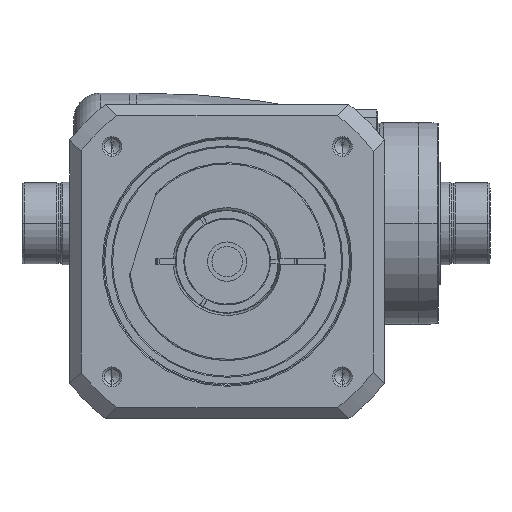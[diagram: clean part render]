
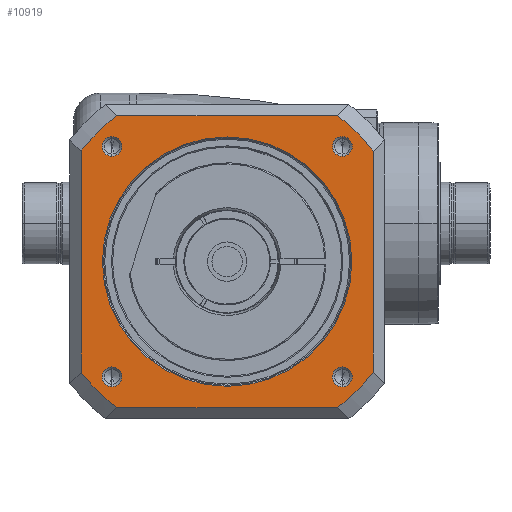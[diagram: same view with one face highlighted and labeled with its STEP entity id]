
A CAD part, front view. The second image highlights one B-rep face of the part: STEP entity #10919.
In plain terms, the highlighted planar face has unit normal (0, -1, 0) as drawn and (0, 0, 1) by its records, which use the part's own axes.
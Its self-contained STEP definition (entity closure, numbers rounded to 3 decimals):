
#9692=CARTESIAN_POINT('',(0.,0.,
56.));
#9693=DIRECTION('',(0.,0.,-1.));
#9694=DIRECTION('',(0.,-1.,0.));
#9695=AXIS2_PLACEMENT_3D('',#9692,#9693,#9694);
#9697=CARTESIAN_POINT('',(0.,0.,
56.));
#9698=DIRECTION('',(0.,0.,-1.));
#9699=DIRECTION('',(0.,1.,0.));
#9700=AXIS2_PLACEMENT_3D('',#9697,#9698,#9699);
#9702=DIRECTION('',(1.,0.,0.));
#9703=VECTOR('',#9702,98.331);
#9704=CARTESIAN_POINT('',(-49.166,65.,56.));
#9705=LINE('',#9704,#9703);
#9706=CARTESIAN_POINT('',(0.,0.,56.));
#9707=DIRECTION('',(0.,0.,1.));
#9708=DIRECTION('',(0.798,0.603,0.));
#9709=AXIS2_PLACEMENT_3D('',#9706,#9707,#9708);
#9711=DIRECTION('',(0.,1.,0.));
#9712=VECTOR('',#9711,98.331);
#9713=CARTESIAN_POINT('',(65.,-49.166,56.));
#9714=LINE('',#9713,#9712);
#9715=DIRECTION('',(1.,0.,0.));
#9716=VECTOR('',#9715,98.331);
#9717=CARTESIAN_POINT('',(-49.166,-65.,56.));
#9718=LINE('',#9717,#9716);
#9719=CARTESIAN_POINT('',(0.,0.,56.));
#9720=DIRECTION('',(0.,0.,1.));
#9721=DIRECTION('',(-0.798,-0.603,0.));
#9722=AXIS2_PLACEMENT_3D('',#9719,#9720,#9721);
#9724=DIRECTION('',(0.,1.,0.));
#9725=VECTOR('',#9724,98.331);
#9726=CARTESIAN_POINT('',(-65.,-49.166,56.));
#9727=LINE('',#9726,#9725);
#9742=CARTESIAN_POINT('',(0.,0.,56.));
#9743=DIRECTION('',(0.,0.,1.));
#9744=DIRECTION('',(-0.603,0.798,0.));
#9745=AXIS2_PLACEMENT_3D('',#9742,#9743,#9744);
#9752=CARTESIAN_POINT('',(0.,0.,56.));
#9753=DIRECTION('',(0.,0.,1.));
#9754=DIRECTION('',(0.603,-0.798,0.));
#9755=AXIS2_PLACEMENT_3D('',#9752,#9753,#9754);
#9769=CARTESIAN_POINT('',(-49.166,65.,56.));
#9861=CARTESIAN_POINT('',(65.,-49.166,56.));
#9889=CARTESIAN_POINT('',(49.166,-65.,56.));
#9929=CARTESIAN_POINT('',(-65.,49.166,56.));
#9938=CARTESIAN_POINT('',(-51.265,51.265,56.));
#9939=DIRECTION('',(0.,0.,1.));
#9940=DIRECTION('',(-1.,0.,0.));
#9941=AXIS2_PLACEMENT_3D('',#9938,#9939,#9940);
#9956=CARTESIAN_POINT('',(-51.265,51.265,56.));
#9957=DIRECTION('',(0.,0.,1.));
#9958=DIRECTION('',(1.,0.,0.));
#9959=AXIS2_PLACEMENT_3D('',#9956,#9957,#9958);
#9992=CARTESIAN_POINT('',(51.265,51.265,56.));
#9993=DIRECTION('',(0.,0.,1.));
#9994=DIRECTION('',(-1.,0.,0.));
#9995=AXIS2_PLACEMENT_3D('',#9992,#9993,#9994);
#10010=CARTESIAN_POINT('',(51.265,51.265,56.));
#10011=DIRECTION('',(0.,0.,1.));
#10012=DIRECTION('',(1.,0.,0.));
#10013=AXIS2_PLACEMENT_3D('',#10010,#10011,#10012);
#10046=CARTESIAN_POINT('',(51.265,-51.265,56.));
#10047=DIRECTION('',(0.,0.,1.));
#10048=DIRECTION('',(-1.,0.,0.));
#10049=AXIS2_PLACEMENT_3D('',#10046,#10047,#10048);
#10064=CARTESIAN_POINT('',(51.265,-51.265,56.));
#10065=DIRECTION('',(0.,0.,1.));
#10066=DIRECTION('',(1.,0.,0.));
#10067=AXIS2_PLACEMENT_3D('',#10064,#10065,#10066);
#10100=CARTESIAN_POINT('',(-51.265,-51.265,56.));
#10101=DIRECTION('',(0.,0.,1.));
#10102=DIRECTION('',(-1.,0.,0.));
#10103=AXIS2_PLACEMENT_3D('',#10100,#10101,#10102);
#10118=CARTESIAN_POINT('',(-51.265,-51.265,56.));
#10119=DIRECTION('',(0.,0.,1.));
#10120=DIRECTION('',(1.,0.,0.));
#10121=AXIS2_PLACEMENT_3D('',#10118,#10119,#10120);
#10208=CARTESIAN_POINT('',(-55.665,51.265,56.));
#10209=CARTESIAN_POINT('',(-46.865,51.265,56.));
#10210=VERTEX_POINT('',#10208);
#10211=VERTEX_POINT('',#10209);
#10234=CARTESIAN_POINT('',(-65.,-49.166,56.));
#10235=CARTESIAN_POINT('',(-49.166,-65.,56.));
#10236=VERTEX_POINT('',#10234);
#10237=VERTEX_POINT('',#10235);
#10238=CARTESIAN_POINT('',(65.,49.166,56.));
#10239=CARTESIAN_POINT('',(49.166,65.,56.));
#10240=VERTEX_POINT('',#10238);
#10241=VERTEX_POINT('',#10239);
#10250=VERTEX_POINT('',#9769);
#10253=VERTEX_POINT('',#9861);
#10254=VERTEX_POINT('',#9889);
#10257=VERTEX_POINT('',#9929);
#10266=CARTESIAN_POINT('',(55.665,51.265,56.));
#10267=CARTESIAN_POINT('',(46.865,51.265,56.));
#10268=VERTEX_POINT('',#10266);
#10269=VERTEX_POINT('',#10267);
#10274=CARTESIAN_POINT('',(55.665,-51.265,56.));
#10275=CARTESIAN_POINT('',(46.865,-51.265,56.));
#10276=VERTEX_POINT('',#10274);
#10277=VERTEX_POINT('',#10275);
#10282=CARTESIAN_POINT('',(-46.865,-51.265,56.));
#10283=CARTESIAN_POINT('',(-55.665,-51.265,56.));
#10284=VERTEX_POINT('',#10282);
#10285=VERTEX_POINT('',#10283);
#10290=CARTESIAN_POINT('',(0.,-55.5,56.));
#10291=CARTESIAN_POINT('',(0.,55.5,
56.));
#10292=VERTEX_POINT('',#10290);
#10293=VERTEX_POINT('',#10291);
#10867=CARTESIAN_POINT('',(0.,0.,56.));
#10868=DIRECTION('',(0.,0.,1.));
#10869=DIRECTION('',(1.,0.,0.));
#10870=AXIS2_PLACEMENT_3D('',#10867,#10868,#10869);
#10871=PLANE('',#10870);
#10873=ORIENTED_EDGE('',*,*,#10872,.F.);
#10875=ORIENTED_EDGE('',*,*,#10874,.T.);
#10877=ORIENTED_EDGE('',*,*,#10876,.F.);
#10879=ORIENTED_EDGE('',*,*,#10878,.F.);
#10881=ORIENTED_EDGE('',*,*,#10880,.F.);
#10883=ORIENTED_EDGE('',*,*,#10882,.F.);
#10885=ORIENTED_EDGE('',*,*,#10884,.F.);
#10887=ORIENTED_EDGE('',*,*,#10886,.T.);
#10888=EDGE_LOOP('',(#10873,#10875,#10877,#10879,#10881,#10883,#10885,#10887));
#10889=FACE_OUTER_BOUND('',#10888,.F.);
#10890=ORIENTED_EDGE('',*,*,#10857,.F.);
#10892=ORIENTED_EDGE('',*,*,#10891,.F.);
#10893=EDGE_LOOP('',(#10890,#10892));
#10894=FACE_BOUND('',#10893,.F.);
#10896=ORIENTED_EDGE('',*,*,#10895,.T.);
#10898=ORIENTED_EDGE('',*,*,#10897,.T.);
#10899=EDGE_LOOP('',(#10896,#10898));
#10900=FACE_BOUND('',#10899,.F.);
#10902=ORIENTED_EDGE('',*,*,#10901,.T.);
#10904=ORIENTED_EDGE('',*,*,#10903,.T.);
#10905=EDGE_LOOP('',(#10902,#10904));
#10906=FACE_BOUND('',#10905,.F.);
#10908=ORIENTED_EDGE('',*,*,#10907,.T.);
#10910=ORIENTED_EDGE('',*,*,#10909,.T.);
#10911=EDGE_LOOP('',(#10908,#10910));
#10912=FACE_BOUND('',#10911,.F.);
#10914=ORIENTED_EDGE('',*,*,#10913,.T.);
#10916=ORIENTED_EDGE('',*,*,#10915,.T.);
#10917=EDGE_LOOP('',(#10914,#10916));
#10918=FACE_BOUND('',#10917,.F.);
#10919=ADVANCED_FACE('',(#10889,#10894,#10900,#10906,#10912,#10918),#10871,.T.);
#9696=CIRCLE('',#9695,55.5);
#9701=CIRCLE('',#9700,55.5);
#9710=CIRCLE('',#9709,81.5);
#9723=CIRCLE('',#9722,81.5);
#9746=CIRCLE('',#9745,81.5);
#9756=CIRCLE('',#9755,81.5);
#9942=CIRCLE('',#9941,4.4);
#9960=CIRCLE('',#9959,4.4);
#9996=CIRCLE('',#9995,4.4);
#10014=CIRCLE('',#10013,4.4);
#10050=CIRCLE('',#10049,4.4);
#10068=CIRCLE('',#10067,4.4);
#10104=CIRCLE('',#10103,4.4);
#10122=CIRCLE('',#10121,4.4);
#10857=EDGE_CURVE('',#10292,#10293,#9696,.T.);
#10872=EDGE_CURVE('',#10250,#10257,#9746,.T.);
#10874=EDGE_CURVE('',#10250,#10241,#9705,.T.);
#10876=EDGE_CURVE('',#10240,#10241,#9710,.T.);
#10878=EDGE_CURVE('',#10253,#10240,#9714,.T.);
#10880=EDGE_CURVE('',#10254,#10253,#9756,.T.);
#10882=EDGE_CURVE('',#10237,#10254,#9718,.T.);
#10884=EDGE_CURVE('',#10236,#10237,#9723,.T.);
#10886=EDGE_CURVE('',#10236,#10257,#9727,.T.);
#10891=EDGE_CURVE('',#10293,#10292,#9701,.T.);
#10895=EDGE_CURVE('',#10210,#10211,#9942,.T.);
#10897=EDGE_CURVE('',#10211,#10210,#9960,.T.);
#10901=EDGE_CURVE('',#10269,#10268,#9996,.T.);
#10903=EDGE_CURVE('',#10268,#10269,#10014,.T.);
#10907=EDGE_CURVE('',#10277,#10276,#10050,.T.);
#10909=EDGE_CURVE('',#10276,#10277,#10068,.T.);
#10913=EDGE_CURVE('',#10285,#10284,#10104,.T.);
#10915=EDGE_CURVE('',#10284,#10285,#10122,.T.);
